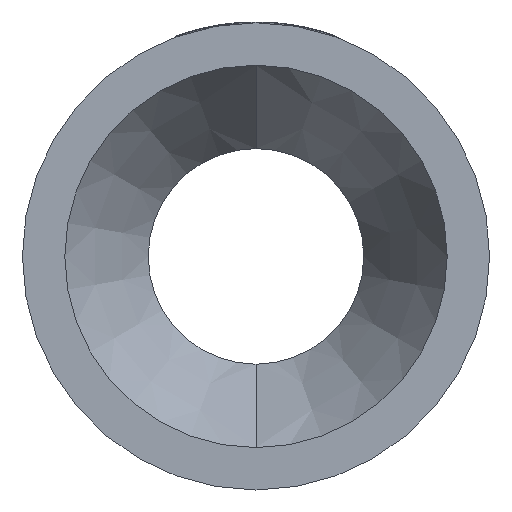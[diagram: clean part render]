
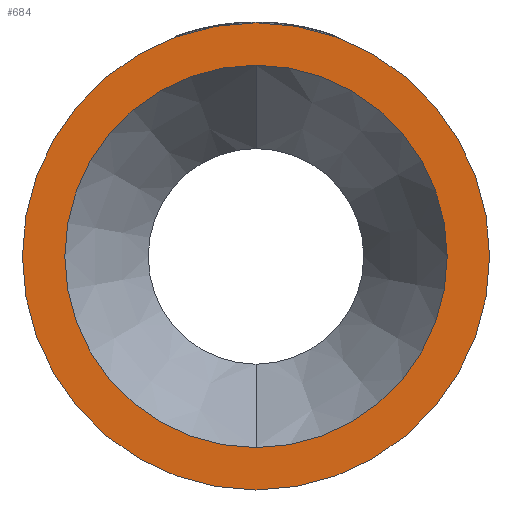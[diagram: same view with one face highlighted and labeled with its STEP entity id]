
A CAD part, left-side view. The second image highlights one B-rep face of the part: STEP entity #684.
In plain terms, the highlighted planar face has unit normal (-1, 0, 0).
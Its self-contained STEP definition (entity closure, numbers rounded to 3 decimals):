
#79 = DIRECTION ( 'NONE',  ( 0., 0., 1. ) ) ;
#85 = DIRECTION ( 'NONE',  ( -1., 0., 0. ) ) ;
#92 = CARTESIAN_POINT ( 'NONE',  ( 0., 0., 0. ) ) ;
#127 = ORIENTED_EDGE ( 'NONE', *, *, #765, .F. ) ;
#161 = DIRECTION ( 'NONE',  ( 0., 0., -1. ) ) ;
#166 = DIRECTION ( 'NONE',  ( 1., 0., 0. ) ) ;
#175 = CARTESIAN_POINT ( 'NONE',  ( 0., 114.6, 0. ) ) ;
#204 = FACE_OUTER_BOUND ( 'NONE', #1144, .T. ) ;
#230 = DIRECTION ( 'NONE',  ( 0., 0., 1. ) ) ;
#237 = DIRECTION ( 'NONE',  ( -1., 0., 0. ) ) ;
#240 = CARTESIAN_POINT ( 'NONE',  ( 0., 0., 0. ) ) ;
#373 = ORIENTED_EDGE ( 'NONE', *, *, #1071, .T. ) ;
#589 = PLANE ( 'NONE',  #3032 ) ;
#601 = AXIS2_PLACEMENT_3D ( 'NONE', #2069, #2059, #2046 ) ;
#604 = VERTEX_POINT ( 'NONE', #1276 ) ;
#626 = CIRCLE ( 'NONE', #601, 114.6 ) ;
#628 = EDGE_LOOP ( 'NONE', ( #127, #2586 ) ) ;
#684 = ADVANCED_FACE ( 'NONE', ( #1397, #204 ), #589, .F. ) ;
#765 = EDGE_CURVE ( 'NONE', #1553, #604, #1997, .T. ) ;
#819 = AXIS2_PLACEMENT_3D ( 'NONE', #92, #85, #79 ) ;
#928 = AXIS2_PLACEMENT_3D ( 'NONE', #240, #237, #230 ) ;
#987 = EDGE_CURVE ( 'NONE', #3172, #1768, #1083, .T. ) ;
#1071 = EDGE_CURVE ( 'NONE', #1768, #3172, #2691, .T. ) ;
#1083 = CIRCLE ( 'NONE', #928, 140. ) ;
#1109 = CARTESIAN_POINT ( 'NONE',  ( 0., 0., 114.6 ) ) ;
#1144 = EDGE_LOOP ( 'NONE', ( #2075, #373 ) ) ;
#1276 = CARTESIAN_POINT ( 'NONE',  ( 0., 0., -114.6 ) ) ;
#1383 = EDGE_CURVE ( 'NONE', #604, #1553, #626, .T. ) ;
#1397 = FACE_BOUND ( 'NONE', #628, .T. ) ;
#1553 = VERTEX_POINT ( 'NONE', #1109 ) ;
#1601 = AXIS2_PLACEMENT_3D ( 'NONE', #3458, #3455, #3449 ) ;
#1768 = VERTEX_POINT ( 'NONE', #3056 ) ;
#1997 = CIRCLE ( 'NONE', #1601, 114.6 ) ;
#2046 = DIRECTION ( 'NONE',  ( 0., 0., 1. ) ) ;
#2059 = DIRECTION ( 'NONE',  ( -1., 0., 0. ) ) ;
#2069 = CARTESIAN_POINT ( 'NONE',  ( 0., 0., 0. ) ) ;
#2075 = ORIENTED_EDGE ( 'NONE', *, *, #987, .T. ) ;
#2586 = ORIENTED_EDGE ( 'NONE', *, *, #1383, .F. ) ;
#2691 = CIRCLE ( 'NONE', #819, 140. ) ;
#2918 = CARTESIAN_POINT ( 'NONE',  ( 0., 0., 140. ) ) ;
#3032 = AXIS2_PLACEMENT_3D ( 'NONE', #175, #166, #161 ) ;
#3056 = CARTESIAN_POINT ( 'NONE',  ( 0., 0., -140. ) ) ;
#3172 = VERTEX_POINT ( 'NONE', #2918 ) ;
#3449 = DIRECTION ( 'NONE',  ( 0., 0., 1. ) ) ;
#3455 = DIRECTION ( 'NONE',  ( -1., 0., 0. ) ) ;
#3458 = CARTESIAN_POINT ( 'NONE',  ( 0., 0., 0. ) ) ;
